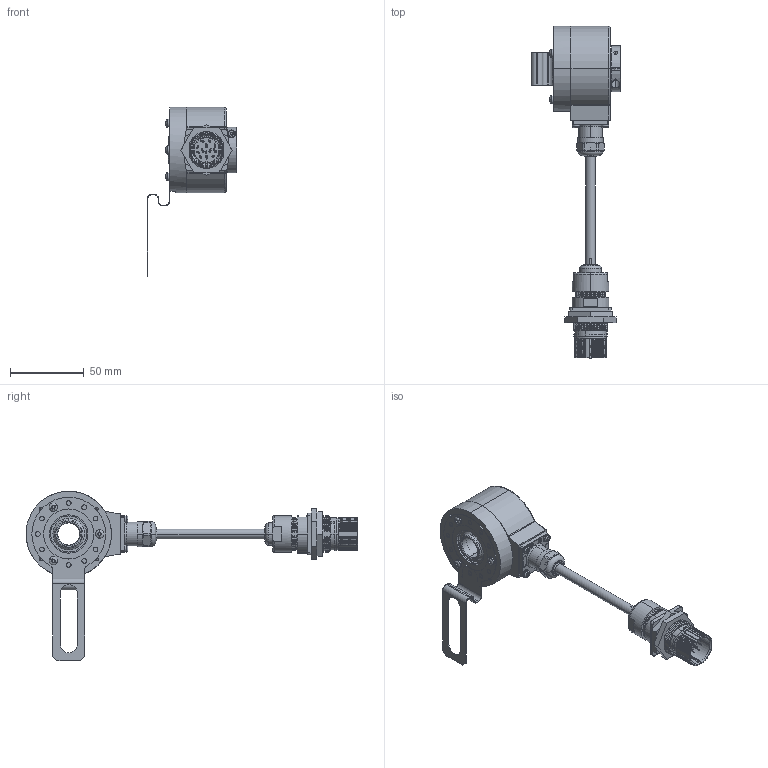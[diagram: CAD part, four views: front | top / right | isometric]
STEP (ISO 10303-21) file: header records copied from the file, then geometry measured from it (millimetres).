
FILE_DESCRIPTION (( 'STEP AP203' ), '1' );
FILE_NAME ('K58I.OXX.XXXXX.XC14515.6XR14.XXXX.step', '2025-12-08T11:52:10', ( '' ), ( '' ), 'SwSTEP 2.0', 'SolidWorks 2021', '' );
FILE_SCHEMA (( 'CONFIG_CONTROL_DESIGN' ));
Length unit declared in the file: millimetre
Products named in the file (1): K58I.OXX.XXXXX.XC14515.6XR14.XXXX
Bounding box: 60.99 x 225.35 x 115 mm (x, y, z)
Volume: 133847.6 mm3; surface area: 62849 mm2
Topology: 33 solids, 33 shells, 2011 faces, 5137 edges, 3281 vertices
Faces by surface type: cylinder 787, plane 590, cone 391, bspline 130, torus 71, sphere 42
Entity records: 69490 total; most frequent: CARTESIAN_POINT 21800, ORIENTED_EDGE 10198, DIRECTION 9741, EDGE_CURVE 5099, AXIS2_PLACEMENT_3D 3842, VERTEX_POINT 3281, EDGE_LOOP 2216, VECTOR 2057
